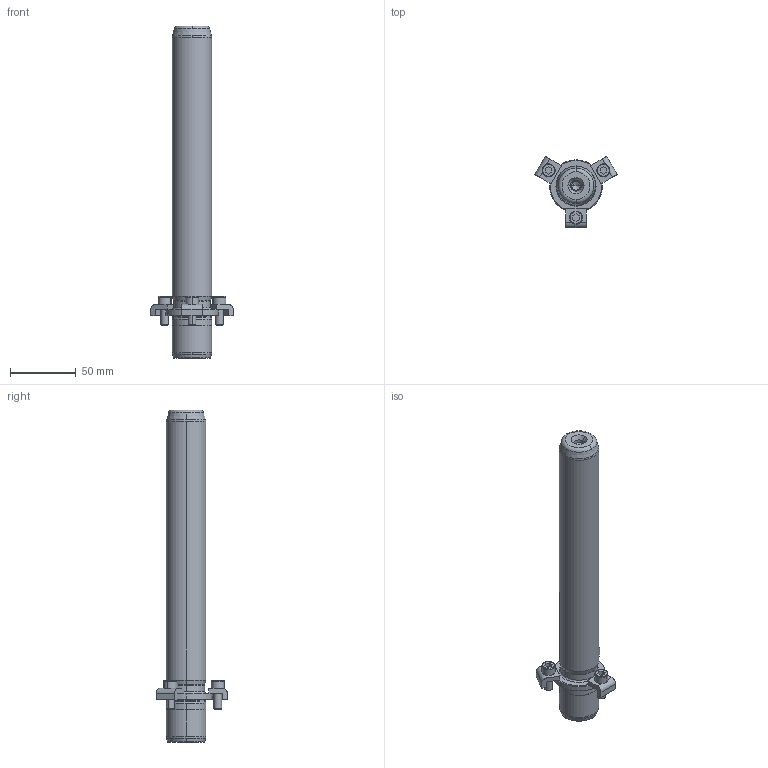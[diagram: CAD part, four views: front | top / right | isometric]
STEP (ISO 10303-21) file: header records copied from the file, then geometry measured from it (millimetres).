
FILE_DESCRIPTION((''),'2;1');
FILE_NAME('P21_030_220.stp','2008-12-23T09:57:28',(''),(''),'Mechanical Desktop 2009','Mechanical Desktop 2009',', , ');
FILE_SCHEMA(('CONFIG_CONTROL_DESIGN'));
Length unit declared in the file: millimetre
Products named in the file (2): Product; blmdl1
Assembly tree (1 placements, depth 2):
  Product
    blmdl1
Bounding box: 62.51 x 54.13 x 252 mm (x, y, z)
Volume: 182136.5 mm3; surface area: 31682.8 mm2
Topology: 7 solids, 7 shells, 163 faces, 399 edges, 257 vertices
Faces by surface type: plane 59, cylinder 44, cone 32, torus 14, bspline 14
Entity records: 5517 total; most frequent: CARTESIAN_POINT 1433, DIRECTION 908, ORIENTED_EDGE 790, EDGE_CURVE 395, AXIS2_PLACEMENT_3D 362, VERTEX_POINT 257, CIRCLE 211, VECTOR 184
